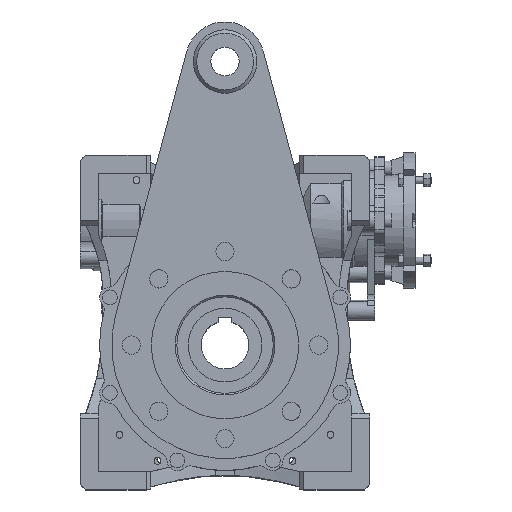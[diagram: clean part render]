
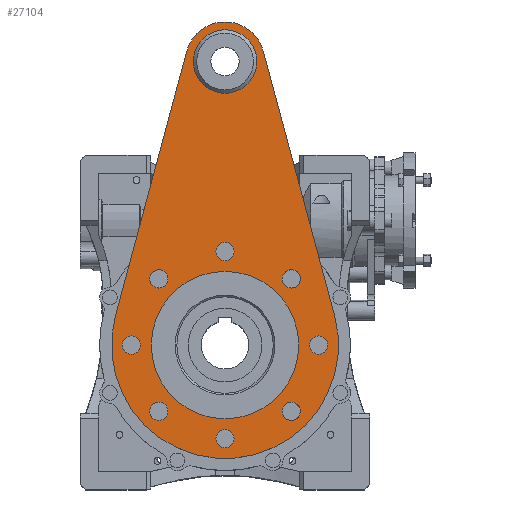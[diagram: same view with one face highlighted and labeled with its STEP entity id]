
A CAD part, top view. The second image highlights one B-rep face of the part: STEP entity #27104.
In plain terms, the highlighted planar face has unit normal (0, 0, 1).
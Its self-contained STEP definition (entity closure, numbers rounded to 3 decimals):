
#1008=PLANE('',#30020);
#2542=CIRCLE('',#30012,100.);
#2543=CIRCLE('',#30015,65.);
#2546=CIRCLE('',#30019,35.);
#2547=CIRCLE('',#30021,8.);
#2548=CIRCLE('',#30022,8.);
#2549=CIRCLE('',#30023,8.);
#2550=CIRCLE('',#30024,8.);
#2551=CIRCLE('',#30025,8.);
#2552=CIRCLE('',#30026,8.);
#2553=CIRCLE('',#30027,8.);
#2554=CIRCLE('',#30028,8.);
#2555=CIRCLE('',#30029,28.);
#10225=ORIENTED_EDGE('',*,*,#14115,.T.);
#10226=ORIENTED_EDGE('',*,*,#14116,.T.);
#10227=ORIENTED_EDGE('',*,*,#14117,.T.);
#10228=ORIENTED_EDGE('',*,*,#14118,.T.);
#10229=ORIENTED_EDGE('',*,*,#14119,.T.);
#10230=ORIENTED_EDGE('',*,*,#14120,.T.);
#10231=ORIENTED_EDGE('',*,*,#14121,.T.);
#10232=ORIENTED_EDGE('',*,*,#14122,.T.);
#10233=ORIENTED_EDGE('',*,*,#14123,.T.);
#10234=ORIENTED_EDGE('',*,*,#14111,.F.);
#10235=ORIENTED_EDGE('',*,*,#14103,.T.);
#10236=ORIENTED_EDGE('',*,*,#14107,.T.);
#10237=ORIENTED_EDGE('',*,*,#14110,.T.);
#10238=ORIENTED_EDGE('',*,*,#14114,.T.);
#14103=EDGE_CURVE('',#16755,#16754,#19011,.T.);
#14107=EDGE_CURVE('',#16754,#16757,#2542,.T.);
#14110=EDGE_CURVE('',#16757,#16759,#19016,.T.);
#14111=EDGE_CURVE('',#16760,#16760,#2543,.T.);
#14114=EDGE_CURVE('',#16759,#16755,#2546,.T.);
#14115=EDGE_CURVE('',#16762,#16762,#2547,.F.);
#14116=EDGE_CURVE('',#16763,#16763,#2548,.F.);
#14117=EDGE_CURVE('',#16764,#16764,#2549,.F.);
#14118=EDGE_CURVE('',#16765,#16765,#2550,.F.);
#14119=EDGE_CURVE('',#16766,#16766,#2551,.F.);
#14120=EDGE_CURVE('',#16767,#16767,#2552,.F.);
#14121=EDGE_CURVE('',#16768,#16768,#2553,.F.);
#14122=EDGE_CURVE('',#16769,#16769,#2554,.F.);
#14123=EDGE_CURVE('',#16770,#16770,#2555,.T.);
#16754=VERTEX_POINT('',#46905);
#16755=VERTEX_POINT('',#46907);
#16757=VERTEX_POINT('',#46913);
#16759=VERTEX_POINT('',#46919);
#16760=VERTEX_POINT('',#46923);
#16762=VERTEX_POINT('',#46931);
#16763=VERTEX_POINT('',#46933);
#16764=VERTEX_POINT('',#46935);
#16765=VERTEX_POINT('',#46937);
#16766=VERTEX_POINT('',#46939);
#16767=VERTEX_POINT('',#46941);
#16768=VERTEX_POINT('',#46943);
#16769=VERTEX_POINT('',#46945);
#16770=VERTEX_POINT('',#46947);
#19011=LINE('',#46906,#21242);
#19016=LINE('',#46920,#21247);
#21242=VECTOR('',#38007,1000.);
#21247=VECTOR('',#38020,1000.);
#23051=EDGE_LOOP('',(#10225));
#23052=EDGE_LOOP('',(#10226));
#23053=EDGE_LOOP('',(#10227));
#23054=EDGE_LOOP('',(#10228));
#23055=EDGE_LOOP('',(#10229));
#23056=EDGE_LOOP('',(#10230));
#23057=EDGE_LOOP('',(#10231));
#23058=EDGE_LOOP('',(#10232));
#23059=EDGE_LOOP('',(#10233));
#23060=EDGE_LOOP('',(#10234));
#23061=EDGE_LOOP('',(#10235,#10236,#10237,#10238));
#24922=FACE_BOUND('',#23051,.T.);
#24923=FACE_BOUND('',#23052,.T.);
#24924=FACE_BOUND('',#23053,.T.);
#24925=FACE_BOUND('',#23054,.T.);
#24926=FACE_BOUND('',#23055,.T.);
#24927=FACE_BOUND('',#23056,.T.);
#24928=FACE_BOUND('',#23057,.T.);
#24929=FACE_BOUND('',#23058,.T.);
#24930=FACE_BOUND('',#23059,.T.);
#24931=FACE_BOUND('',#23060,.T.);
#24932=FACE_BOUND('',#23061,.T.);
#27104=ADVANCED_FACE('',(#24922,#24923,#24924,#24925,#24926,#24927,#24928,
#24929,#24930,#24931,#24932),#1008,.T.);
#30012=AXIS2_PLACEMENT_3D('',#46914,#38014,#38015);
#30015=AXIS2_PLACEMENT_3D('',#46922,#38023,#38024);
#30019=AXIS2_PLACEMENT_3D('',#46928,#38031,#38032);
#30020=AXIS2_PLACEMENT_3D('',#46929,#38033,#38034);
#30021=AXIS2_PLACEMENT_3D('',#46930,#38035,#38036);
#30022=AXIS2_PLACEMENT_3D('',#46932,#38037,#38038);
#30023=AXIS2_PLACEMENT_3D('',#46934,#38039,#38040);
#30024=AXIS2_PLACEMENT_3D('',#46936,#38041,#38042);
#30025=AXIS2_PLACEMENT_3D('',#46938,#38043,#38044);
#30026=AXIS2_PLACEMENT_3D('',#46940,#38045,#38046);
#30027=AXIS2_PLACEMENT_3D('',#46942,#38047,#38048);
#30028=AXIS2_PLACEMENT_3D('',#46944,#38049,#38050);
#30029=AXIS2_PLACEMENT_3D('',#46946,#38051,#38052);
#38007=DIRECTION('',(0.26,0.966,0.));
#38014=DIRECTION('',(0.,0.,1.));
#38015=DIRECTION('',(1.,0.,0.));
#38020=DIRECTION('',(0.26,-0.966,0.));
#38023=DIRECTION('',(0.,0.,1.));
#38024=DIRECTION('',(1.,0.,0.));
#38031=DIRECTION('',(0.,0.,1.));
#38032=DIRECTION('',(1.,0.,0.));
#38033=DIRECTION('',(0.,0.,1.));
#38034=DIRECTION('',(1.,0.,0.));
#38035=DIRECTION('',(0.,0.,1.));
#38036=DIRECTION('',(1.,0.,0.));
#38037=DIRECTION('',(0.,0.,1.));
#38038=DIRECTION('',(1.,0.,0.));
#38039=DIRECTION('',(0.,0.,1.));
#38040=DIRECTION('',(1.,0.,0.));
#38041=DIRECTION('',(0.,0.,1.));
#38042=DIRECTION('',(1.,0.,0.));
#38043=DIRECTION('',(0.,0.,1.));
#38044=DIRECTION('',(1.,0.,0.));
#38045=DIRECTION('',(0.,0.,1.));
#38046=DIRECTION('',(1.,0.,0.));
#38047=DIRECTION('',(0.,0.,1.));
#38048=DIRECTION('',(1.,0.,0.));
#38049=DIRECTION('',(0.,0.,1.));
#38050=DIRECTION('',(1.,0.,0.));
#38051=DIRECTION('',(0.,0.,-1.));
#38052=DIRECTION('',(-1.,0.,0.));
#46905=CARTESIAN_POINT('',(96.561,-26.,3.));
#46906=CARTESIAN_POINT('',(33.796,-259.1,3.));
#46907=CARTESIAN_POINT('',(33.796,-259.1,3.));
#46913=CARTESIAN_POINT('',(-96.561,-26.,3.));
#46914=CARTESIAN_POINT('',(0.,0.,
3.));
#46919=CARTESIAN_POINT('',(-33.796,-259.1,3.));
#46920=CARTESIAN_POINT('',(-96.561,-26.,3.));
#46922=CARTESIAN_POINT('',(0.,0.,3.));
#46923=CARTESIAN_POINT('',(65.,0.,3.));
#46928=CARTESIAN_POINT('',(0.,-250.,3.));
#46929=CARTESIAN_POINT('',(0.,0.,
3.));
#46930=CARTESIAN_POINT('',(-82.5,0.,3.));
#46931=CARTESIAN_POINT('',(-74.5,0.,3.));
#46932=CARTESIAN_POINT('',(-58.336,-58.336,3.));
#46933=CARTESIAN_POINT('',(-50.336,-58.336,3.));
#46934=CARTESIAN_POINT('',(0.,-82.5,3.));
#46935=CARTESIAN_POINT('',(8.,-82.5,3.));
#46936=CARTESIAN_POINT('',(58.336,-58.336,3.));
#46937=CARTESIAN_POINT('',(66.336,-58.336,3.));
#46938=CARTESIAN_POINT('',(82.5,0.,3.));
#46939=CARTESIAN_POINT('',(90.5,0.,3.));
#46940=CARTESIAN_POINT('',(58.336,58.336,3.));
#46941=CARTESIAN_POINT('',(66.336,58.336,3.));
#46942=CARTESIAN_POINT('',(-58.336,58.336,3.));
#46943=CARTESIAN_POINT('',(-50.336,58.336,3.));
#46944=CARTESIAN_POINT('',(0.,82.5,3.));
#46945=CARTESIAN_POINT('',(8.,82.5,3.));
#46946=CARTESIAN_POINT('',(0.,-250.,3.));
#46947=CARTESIAN_POINT('',(-28.,-250.,3.));
